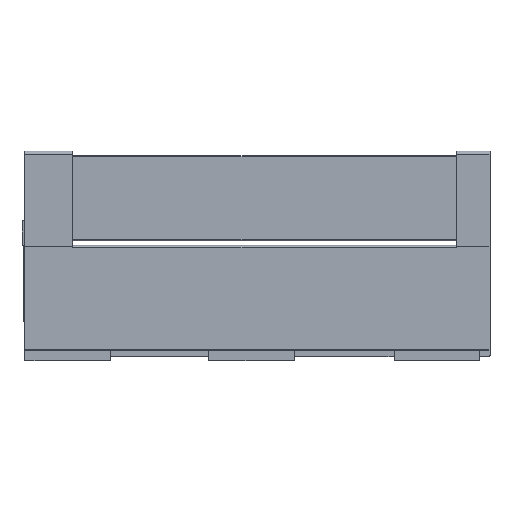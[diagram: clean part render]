
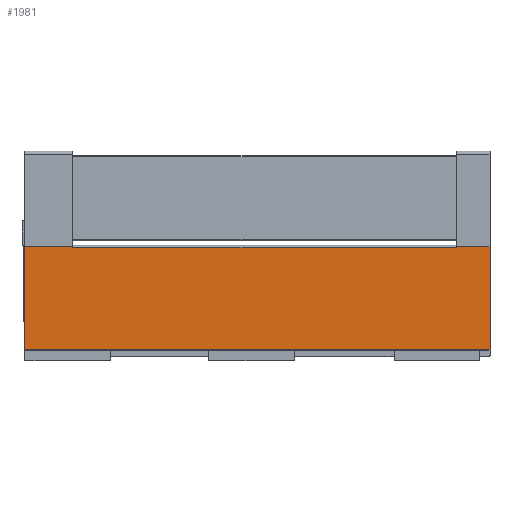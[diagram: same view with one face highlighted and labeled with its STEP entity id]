
A CAD part, left-side view. The second image highlights one B-rep face of the part: STEP entity #1981.
In plain terms, the highlighted planar face has unit normal (-1, 0, 0).
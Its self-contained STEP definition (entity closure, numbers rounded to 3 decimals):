
#151 = CARTESIAN_POINT ( 'NONE',  ( -4.1, 595., 79.266 ) ) ;
#152 = DIRECTION ( 'NONE',  ( 0., -1., 0. ) ) ;
#233 = CARTESIAN_POINT ( 'NONE',  ( -4.1, 439.3, -28.503 ) ) ;
#239 = DIRECTION ( 'NONE',  ( 0., 0., -1. ) ) ;
#501 = CARTESIAN_POINT ( 'NONE',  ( -4.1, 0., -28.503 ) ) ;
#502 = DIRECTION ( 'NONE',  ( 0., 0., -1. ) ) ;
#626 = CARTESIAN_POINT ( 'NONE',  ( -4.1, 490., 80.248 ) ) ;
#627 = DIRECTION ( 'NONE',  ( 0., -1., 0. ) ) ;
#835 = CARTESIAN_POINT ( 'NONE',  ( -4.1, 490., -28.503 ) ) ;
#836 = DIRECTION ( 'NONE',  ( 0., -1., 0. ) ) ;
#865 = CARTESIAN_POINT ( 'NONE',  ( -4.1, 490., 80.248 ) ) ;
#866 = DIRECTION ( 'NONE',  ( 0., -1., 0. ) ) ;
#970 = CARTESIAN_POINT ( 'NONE',  ( -4.1, 490., 78.498 ) ) ;
#971 = DIRECTION ( 'NONE',  ( 0., 0., -1. ) ) ;
#1093 = CARTESIAN_POINT ( 'NONE',  ( -4.1, 35.3, -28.503 ) ) ;
#1113 = DIRECTION ( 'NONE',  ( 0., 0., 1. ) ) ;
#1144 = CARTESIAN_POINT ( 'NONE',  ( -4.1, 0., -28.503 ) ) ;
#1153 = LINE ( 'NONE', #233, #1157 ) ;
#1157 = VECTOR ( 'NONE', #239, 1000. ) ;
#1203 = VECTOR ( 'NONE', #1113, 1000. ) ;
#1234 = LINE ( 'NONE', #1093, #1203 ) ;
#1353 = LINE ( 'NONE', #970, #1388 ) ;
#1388 = VECTOR ( 'NONE', #971, 1000. ) ;
#1446 = VECTOR ( 'NONE', #866, 1000. ) ;
#1452 = LINE ( 'NONE', #865, #1446 ) ;
#1463 = VECTOR ( 'NONE', #836, 1000. ) ;
#1464 = LINE ( 'NONE', #835, #1463 ) ;
#1660 = VECTOR ( 'NONE', #627, 1000. ) ;
#1661 = LINE ( 'NONE', #626, #1660 ) ;
#1790 = LINE ( 'NONE', #501, #1794 ) ;
#1794 = VECTOR ( 'NONE', #502, 1000. ) ;
#1981 = ADVANCED_FACE ( 'NONE', ( #4512 ), #3046, .F. ) ;
#2357 = VERTEX_POINT ( 'NONE', #2715 ) ;
#2565 = VERTEX_POINT ( 'NONE', #2667 ) ;
#2587 = CARTESIAN_POINT ( 'NONE',  ( -4.1, 439.3, 79.266 ) ) ;
#2597 = CARTESIAN_POINT ( 'NONE',  ( -4.1, 439.3, 80.248 ) ) ;
#2617 = CARTESIAN_POINT ( 'NONE',  ( -4.1, 35.3, 79.266 ) ) ;
#2620 = CARTESIAN_POINT ( 'NONE',  ( -4.1, 35.3, 80.248 ) ) ;
#2667 = CARTESIAN_POINT ( 'NONE',  ( -4.1, 490., -28.503 ) ) ;
#2715 = CARTESIAN_POINT ( 'NONE',  ( -4.1, 0., 80.248 ) ) ;
#2938 = VERTEX_POINT ( 'NONE', #2620 ) ;
#2948 = VERTEX_POINT ( 'NONE', #2617 ) ;
#3030 = VERTEX_POINT ( 'NONE', #2597 ) ;
#3033 = DIRECTION ( 'NONE',  ( 0., 0., -1. ) ) ;
#3034 = DIRECTION ( 'NONE',  ( 1., 0., 0. ) ) ;
#3042 = CARTESIAN_POINT ( 'NONE',  ( -4.1, 490., -28.503 ) ) ;
#3046 = PLANE ( 'NONE',  #3720 ) ;
#3072 = VERTEX_POINT ( 'NONE', #2587 ) ;
#3237 = CARTESIAN_POINT ( 'NONE',  ( -4.1, 490., 80.248 ) ) ;
#3621 = EDGE_CURVE ( 'NONE', #3072, #2948, #4214, .T. ) ;
#3660 = EDGE_CURVE ( 'NONE', #3030, #3072, #1153, .T. ) ;
#3720 = AXIS2_PLACEMENT_3D ( 'NONE', #3042, #3034, #3033 ) ;
#3801 = EDGE_CURVE ( 'NONE', #2357, #5794, #1790, .T. ) ;
#3876 = EDGE_CURVE ( 'NONE', #5965, #3030, #1661, .T. ) ;
#3999 = EDGE_CURVE ( 'NONE', #2565, #5794, #1464, .T. ) ;
#4013 = EDGE_CURVE ( 'NONE', #2938, #2357, #1452, .T. ) ;
#4068 = EDGE_CURVE ( 'NONE', #5965, #2565, #1353, .T. ) ;
#4137 = EDGE_CURVE ( 'NONE', #2948, #2938, #1234, .T. ) ;
#4213 = VECTOR ( 'NONE', #152, 1000. ) ;
#4214 = LINE ( 'NONE', #151, #4213 ) ;
#4512 = FACE_OUTER_BOUND ( 'NONE', #4610, .T. ) ;
#4610 = EDGE_LOOP ( 'NONE', ( #5001, #5002, #5003, #5004, #5005, #5006, #5007, #5008 ) ) ;
#5001 = ORIENTED_EDGE ( 'NONE', *, *, #3621, .F. ) ;
#5002 = ORIENTED_EDGE ( 'NONE', *, *, #3660, .F. ) ;
#5003 = ORIENTED_EDGE ( 'NONE', *, *, #3876, .F. ) ;
#5004 = ORIENTED_EDGE ( 'NONE', *, *, #4068, .T. ) ;
#5005 = ORIENTED_EDGE ( 'NONE', *, *, #3999, .T. ) ;
#5006 = ORIENTED_EDGE ( 'NONE', *, *, #3801, .F. ) ;
#5007 = ORIENTED_EDGE ( 'NONE', *, *, #4013, .F. ) ;
#5008 = ORIENTED_EDGE ( 'NONE', *, *, #4137, .F. ) ;
#5794 = VERTEX_POINT ( 'NONE', #1144 ) ;
#5965 = VERTEX_POINT ( 'NONE', #3237 ) ;
